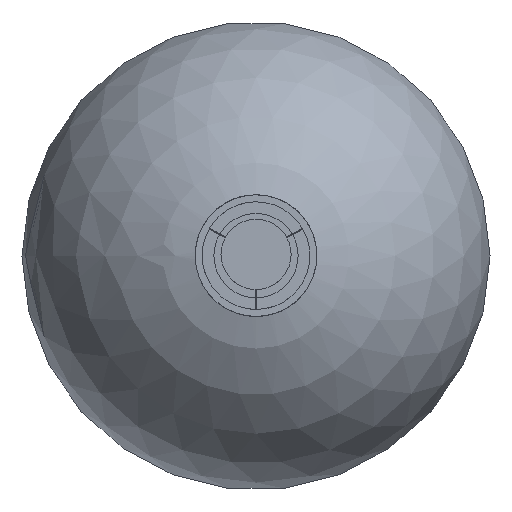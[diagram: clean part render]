
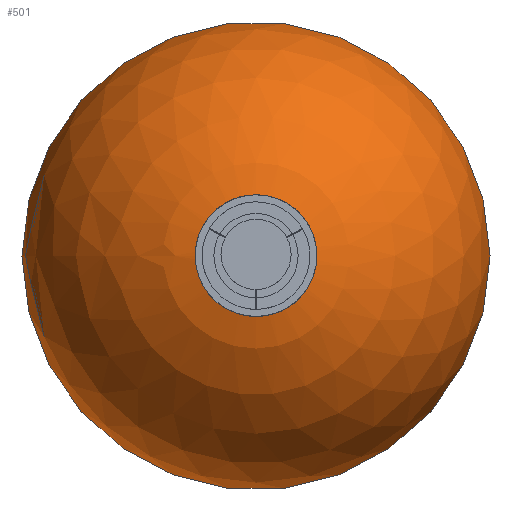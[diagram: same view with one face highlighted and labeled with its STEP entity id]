
A CAD part, top view. The second image highlights one B-rep face of the part: STEP entity #501.
In plain terms, the highlighted spherical face has radius 500 mm.
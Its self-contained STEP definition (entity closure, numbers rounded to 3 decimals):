
#12=SPHERICAL_SURFACE('',#621,500.);
#132=FACE_OUTER_BOUND('',#181,.T.);
#181=EDGE_LOOP('',(#446,#447,#448));
#242=CIRCLE('',#620,90.);
#243=CIRCLE('',#622,500.);
#279=VERTEX_POINT('',#1284);
#280=VERTEX_POINT('',#1288);
#335=EDGE_CURVE('',#279,#279,#242,.T.);
#336=EDGE_CURVE('',#280,#279,#243,.T.);
#446=ORIENTED_EDGE('',*,*,#335,.T.);
#447=ORIENTED_EDGE('',*,*,#336,.F.);
#448=ORIENTED_EDGE('',*,*,#336,.T.);
#501=ADVANCED_FACE('',(#132),#12,.T.);
#620=AXIS2_PLACEMENT_3D('',#1286,#791,#792);
#621=AXIS2_PLACEMENT_3D('',#1287,#793,#794);
#622=AXIS2_PLACEMENT_3D('',#1289,#795,#796);
#791=DIRECTION('center_axis',(0.,0.,1.));
#792=DIRECTION('ref_axis',(1.,0.,0.));
#793=DIRECTION('center_axis',(0.,0.,1.));
#794=DIRECTION('ref_axis',(1.,0.,0.));
#795=DIRECTION('center_axis',(0.,-1.,0.));
#796=DIRECTION('ref_axis',(-1.,0.,0.));
#1284=CARTESIAN_POINT('',(-90.,0.,0.));
#1286=CARTESIAN_POINT('Origin',(0.,0.,0.));
#1287=CARTESIAN_POINT('Origin',(0.,0.,491.833));
#1288=CARTESIAN_POINT('',(0.,0.,991.833));
#1289=CARTESIAN_POINT('Origin',(0.,0.,491.833));
